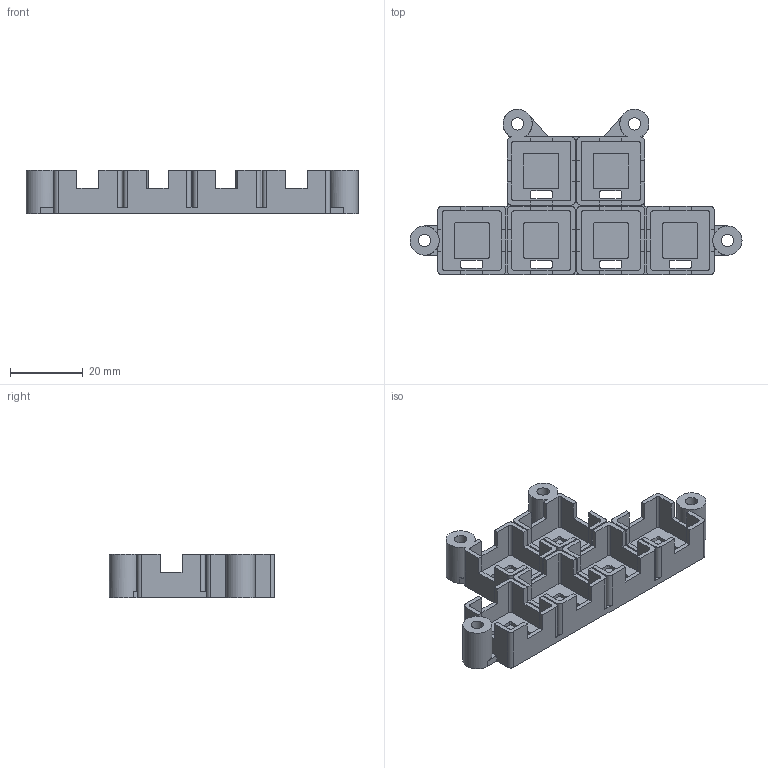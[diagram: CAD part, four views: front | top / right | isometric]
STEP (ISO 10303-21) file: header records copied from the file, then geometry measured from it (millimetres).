
FILE_DESCRIPTION(('Open CASCADE Model'),'2;1');
FILE_NAME('Open CASCADE Shape Model','2026-09-14T21:14:26',('Author'),( 'Open CASCADE'),'Open CASCADE STEP processor 7.9','Open CASCADE 7.9' ,'Unknown');
FILE_SCHEMA(('AUTOMOTIVE_DESIGN { 1 0 10303 214 1 1 1 1 }'));
Length unit declared in the file: millimetre
Products named in the file (1): Open CASCADE STEP translator 7.9 4
Bounding box: 91 x 45.32 x 12 mm (x, y, z)
Volume: 9369.7 mm3; surface area: 13924.2 mm2
Topology: 1 solids, 1 shells, 327 faces, 957 edges, 638 vertices
Faces by surface type: plane 222, cylinder 105
Full cylindrical faces by diameter (mm): 3.4 x4, 8 x1
Entity records: 22927 total; most frequent: CARTESIAN_POINT 4866, DIRECTION 3072, ORIENTED_EDGE 1914, PCURVE 1914, DEFINITIONAL_REPRESENTATION 1914, LINE 1816, VECTOR 1816, EDGE_CURVE 957
